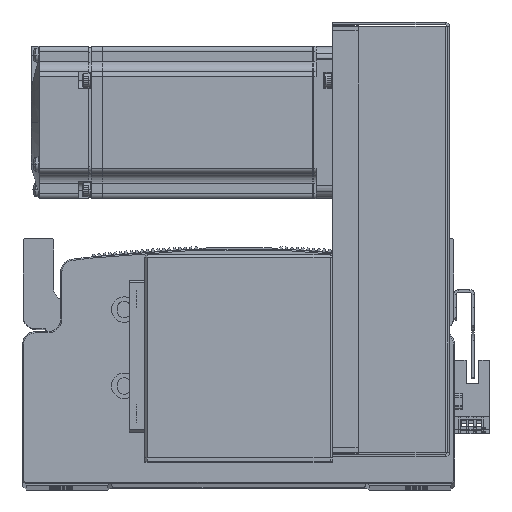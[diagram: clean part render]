
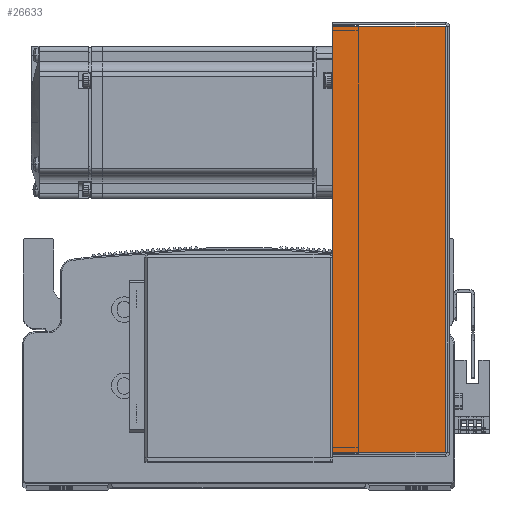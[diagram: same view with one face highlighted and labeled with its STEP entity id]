
A CAD part, top view. The second image highlights one B-rep face of the part: STEP entity #26633.
In plain terms, the highlighted planar face has unit normal (0, 0, 1).
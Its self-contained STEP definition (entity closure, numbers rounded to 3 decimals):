
#2908 = EDGE_LOOP ( 'NONE', ( #11656, #11754, #11668, #11760 ) ) ;
#4651 = VERTEX_POINT ( 'NONE', #81131 ) ;
#4653 = VERTEX_POINT ( 'NONE', #81137 ) ;
#6575 = VERTEX_POINT ( 'NONE', #58240 ) ;
#6576 = VERTEX_POINT ( 'NONE', #58309 ) ;
#11656 = ORIENTED_EDGE ( 'NONE', *, *, #15472, .F. ) ;
#11668 = ORIENTED_EDGE ( 'NONE', *, *, #15445, .T. ) ;
#11754 = ORIENTED_EDGE ( 'NONE', *, *, #15347, .T. ) ;
#11760 = ORIENTED_EDGE ( 'NONE', *, *, #15448, .F. ) ;
#15347 = EDGE_CURVE ( 'NONE', #6576, #6575, #64852, .T. ) ;
#15445 = EDGE_CURVE ( 'NONE', #6575, #4653, #65034, .T. ) ;
#15448 = EDGE_CURVE ( 'NONE', #4651, #4653, #65001, .T. ) ;
#15472 = EDGE_CURVE ( 'NONE', #6576, #4651, #65011, .T. ) ;
#26633 = ADVANCED_FACE ( 'NONE', ( #55436 ), #49956, .F. ) ;
#34434 = AXIS2_PLACEMENT_3D ( 'NONE', #49950, #49957, #49959 ) ;
#49950 = CARTESIAN_POINT ( 'NONE',  ( 0., 0., 40.5 ) ) ;
#49956 = PLANE ( 'NONE',  #34434 ) ;
#49957 = DIRECTION ( 'NONE',  ( 0., 0., -1. ) ) ;
#49959 = DIRECTION ( 'NONE',  ( -1., 0., 0. ) ) ;
#54618 = CARTESIAN_POINT ( 'NONE',  ( 83.793, 0., 40.5 ) ) ;
#54621 = DIRECTION ( 'NONE',  ( 0., 1., 0. ) ) ;
#54925 = CARTESIAN_POINT ( 'NONE',  ( -84.5, 45., 40.5 ) ) ;
#54945 = CARTESIAN_POINT ( 'NONE',  ( -83.793, 0., 40.5 ) ) ;
#54959 = DIRECTION ( 'NONE',  ( -1., 0., 0. ) ) ;
#54963 = DIRECTION ( 'NONE',  ( 0., 1., 0. ) ) ;
#54994 = DIRECTION ( 'NONE',  ( -1., 0., 0. ) ) ;
#55004 = CARTESIAN_POINT ( 'NONE',  ( 0., 0.737, 40.5 ) ) ;
#55436 = FACE_OUTER_BOUND ( 'NONE', #2908, .T. ) ;
#58240 = CARTESIAN_POINT ( 'NONE',  ( 83.793, 45., 40.5 ) ) ;
#58309 = CARTESIAN_POINT ( 'NONE',  ( 83.793, 0.737, 40.5 ) ) ;
#64852 = LINE ( 'NONE', #54618, #64861 ) ;
#64861 = VECTOR ( 'NONE', #54621, 1000. ) ;
#64997 = VECTOR ( 'NONE', #54959, 1000. ) ;
#65001 = LINE ( 'NONE', #54945, #65022 ) ;
#65011 = LINE ( 'NONE', #55004, #65050 ) ;
#65022 = VECTOR ( 'NONE', #54963, 1000. ) ;
#65034 = LINE ( 'NONE', #54925, #64997 ) ;
#65050 = VECTOR ( 'NONE', #54994, 1000. ) ;
#81131 = CARTESIAN_POINT ( 'NONE',  ( -83.793, 0.737, 40.5 ) ) ;
#81137 = CARTESIAN_POINT ( 'NONE',  ( -83.793, 45., 40.5 ) ) ;
